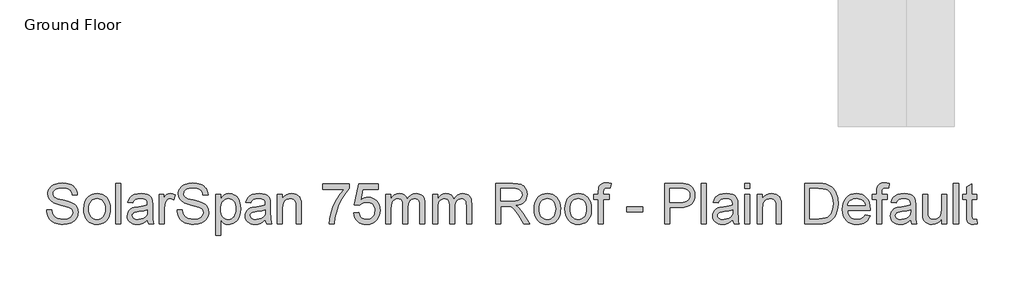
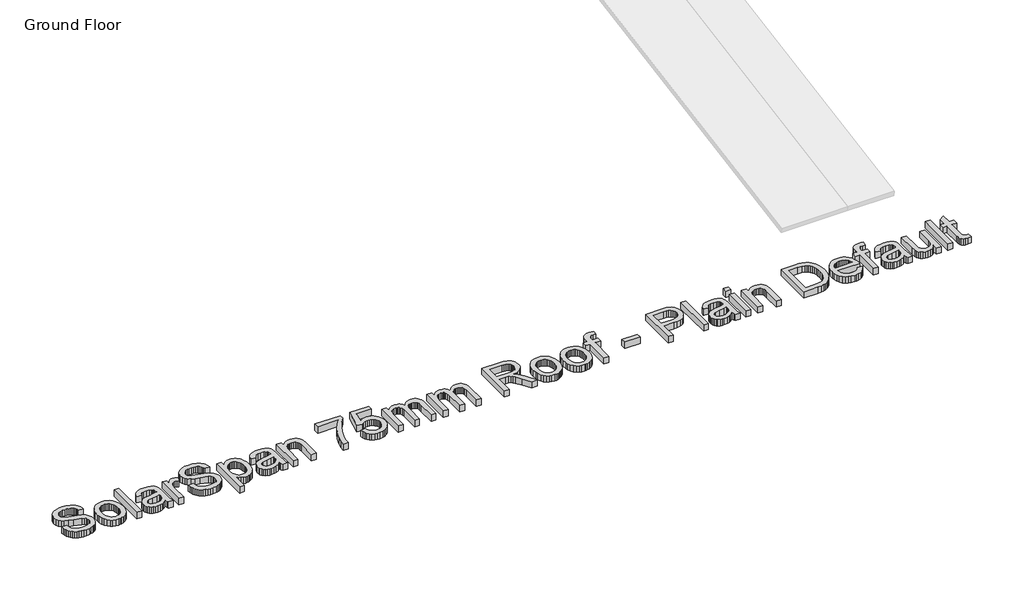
# One storey, part 2 of 5: 1 proxy.
"""IFC4 building model written with IfcOpenShell, lengths in millimetres."""

from ifc_helpers import new_model, si_unit, origin, origin_with_axes, place, context, project, spatial, polyline, outline, extrude, element, save

model = new_model("IFC4")

# Units and contexts
model_context = context("Model", 3, world=origin())
ifc_project = project(units=[si_unit("LENGTHUNIT", "METRE", prefix="MILLI")], contexts=[model_context])

# Site, building, storey
site = spatial("IfcSite", under=ifc_project)
building = spatial("IfcBuilding", under=site)
storey = spatial("IfcBuildingStorey", under=building, Name="Ground Floor", Elevation=0.0)

# Proxy
placement = place(None, origin())
element("IfcBuildingElementProxy", 1, Name="600mm Arial", ObjectType="600mm Arial", at=placement, inside=storey, context=model_context, shape_type="SweptSolid", body=[
    extrude(outline(polyline([(-13762.2591402, -48770.7862675), (-13688.4129863, -48770.7862675), (-13679.9394287, -48811.7658348), (-13664.6149094, -48844.7045367), (-13640.7086594, -48870.8463636), (-13606.4899094, -48891.4353059), (-13564.6629863, -48904.7946809), (-13517.9322171, -48909.2478059), (-13476.7903902, -48905.8764117), (-13440.7687556, -48895.762229), (-13411.5800537, -48879.7526136), (-13390.9370248, -48858.6949213), (-13378.6593806, -48834.5182386), (-13374.5668325, -48809.1516521), (-13377.6317363, -48784.434104), (-13386.8264479, -48763.0699213), (-13405.5043325, -48744.8427579), (-13437.0187556, -48729.5362675), (-13544.542794, -48701.3391521), (-13615.1257267, -48682.6792963), (-13660.2879863, -48664.9208829), (-13697.0488037, -48640.0771329), (-13723.1004863, -48609.9689598), (-13738.6233229, -48575.2454021), (-13743.7976017, -48536.5554982), (-13742.1975416, -48514.5648132), (-13737.3973613, -48493.3042963), (-13729.3970609, -48472.7739478), (-13718.1966402, -48452.9737675), (-13703.9223012, -48434.7105463), (-13686.700246, -48418.7910752), (-13666.5304743, -48405.215354), (-13643.4129863, -48393.9833829), (-13591.4538517, -48378.8932386), (-13533.9418325, -48373.8631906), (-13471.6341402, -48379.1276136), (-13417.1149094, -48394.9208829), (-13393.262746, -48406.684705), (-13372.3312556, -48420.918479), (-13354.3204383, -48437.622205), (-13339.230294, -48456.7958829), (-13327.1780104, -48477.8806184), (-13318.2807748, -48500.3175175), (-13312.5385873, -48524.10658), (-13309.9514479, -48549.2478059), (-13383.7976017, -48549.2478059), (-13388.7375056, -48525.684104), (-13397.355294, -48505.1853059), (-13409.6509671, -48487.7514117), (-13425.6245248, -48473.3824213), (-13445.5734431, -48462.1504502), (-13469.7951979, -48454.1276136), (-13498.2897892, -48449.3139117), (-13531.0572171, -48447.7093444), (-13564.8703181, -48449.2958829), (-13593.761544, -48454.0554982), (-13617.730895, -48461.9881906), (-13636.778371, -48473.0939598), (-13651.2915921, -48486.4443204), (-13661.6581787, -48501.1107867), (-13667.8781306, -48517.0933588), (-13669.9514479, -48534.3920367), (-13664.074044, -48562.7694406), (-13646.4418325, -48585.5939598), (-13630.2519287, -48595.7442002), (-13604.7591402, -48606.0026136), (-13525.8649094, -48626.8439598), (-13444.4466402, -48646.6396329), (-13395.1918325, -48663.9112675), (-13353.0944767, -48690.7021329), (-13336.8189359, -48706.45033), (-13323.7254863, -48723.7670367), (-13313.660883, -48742.5621088), (-13306.4718806, -48762.7454021), (-13300.7206787, -48807.2766521), (-13302.3748253, -48830.3761112), (-13307.3372652, -48852.7994886), (-13315.6079984, -48874.5467843), (-13327.1870248, -48895.6179982), (-13341.87152, -48915.1973252), (-13359.4586594, -48932.4689598), (-13379.9484431, -48947.4329021), (-13403.340871, -48960.0891521), (-13428.9553541, -48970.1537555), (-13456.1113037, -48977.3427579), (-13515.0476017, -48983.0939598), (-13552.8225416, -48981.543479), (-13587.3973613, -48976.8920367), (-13618.7720609, -48969.1396329), (-13646.9466402, -48958.2862675), (-13672.0923734, -48944.3139117), (-13694.3805344, -48927.2045367), (-13713.8111234, -48906.9581425), (-13730.3841402, -48883.574729), (-13743.7345008, -48857.8115079), (-13753.497121, -48830.4256906), (-13759.6720008, -48801.4172771), (-13762.2591402, -48770.7862675)])), origin_with_axes(), (0.0, 0.0, 1.0), 100.0),
    extrude(outline(polyline([(-13217.6437556, -48756.9401136), (-13213.6503662, -48700.7532146), (-13201.6701979, -48652.3367482), (-13181.7032508, -48611.6907146), (-13153.7495248, -48578.8151136), (-13125.606496, -48557.8024934), (-13094.542794, -48542.793479), (-13060.558419, -48533.7880704), (-13023.653371, -48530.7862675), (-12982.9126859, -48534.441616), (-12946.075246, -48545.4076617), (-12913.1410512, -48563.6844045), (-12884.1101017, -48589.2718444), (-12860.4156907, -48621.3045968), (-12843.4911113, -48658.9172771), (-12833.3363637, -48702.1098853), (-12829.9514479, -48750.8824213), (-12831.4478421, -48790.4106665), (-12835.9370248, -48825.4857867), (-12843.418996, -48856.1077819), (-12853.8937556, -48882.2766521), (-12867.2305945, -48904.880318), (-12883.2988037, -48924.8067002), (-12902.098383, -48942.0557987), (-12923.6293325, -48956.6276136), (-12947.0533109, -48968.2066401), (-12971.5319767, -48976.4773732), (-12997.0653301, -48981.4398132), (-13023.653371, -48983.0939598), (-13064.989008, -48979.4521329), (-13102.168996, -48968.5266521), (-13135.1933349, -48950.3175175), (-13164.0620248, -48924.824729), (-13187.504032, -48892.480979), (-13204.2483229, -48853.7189598), (-13214.2948974, -48808.5386713), (-13217.6437556, -48756.9401136)]), holes=[polyline([(-13143.7976017, -48756.7958829), (-13141.6611835, -48792.614693), (-13135.2519287, -48823.6288156), (-13124.5698373, -48849.8382507), (-13109.6149094, -48871.2429982), (-13091.4238037, -48887.8701016), (-13071.0331787, -48899.746604), (-13048.4430344, -48906.8725055), (-13023.653371, -48909.2478059), (-12998.9899094, -48906.8589838), (-12976.4899094, -48899.6925175), (-12956.153371, -48887.7484069), (-12937.980294, -48871.0266521), (-12923.0253662, -48849.4100656), (-12912.3432748, -48822.7814598), (-12905.93402, -48791.1408348), (-12903.7976017, -48754.4881906), (-12905.9475416, -48719.8051978), (-12912.3973613, -48689.6023732), (-12923.1470609, -48663.879717), (-12938.1966402, -48642.637229), (-12956.4373253, -48626.0101257), (-12976.7603421, -48614.1336232), (-12999.1656907, -48607.0077218), (-13023.653371, -48604.6324213), (-13048.4430344, -48606.9987074), (-13071.0331787, -48614.0975656), (-13091.4238037, -48625.9289958), (-13109.6149094, -48642.4929982), (-13124.5698373, -48663.8346449), (-13135.2519287, -48689.9990079), (-13141.6611835, -48720.9860872), (-13143.7976017, -48756.7958829)])]), origin_with_axes(), (0.0, 0.0, 1.0), 100.0),
    extrude(outline(polyline([(-12746.8745248, -48973.8631906), (-12746.8745248, -48383.0939598), (-12673.028371, -48383.0939598), (-12673.028371, -48973.8631906), (-12746.8745248, -48973.8631906)])), origin_with_axes(), (0.0, 0.0, 1.0), 100.0),
    extrude(outline(polyline([(-12285.3360633, -48918.4785752), (-12320.6185152, -48948.730979), (-12356.9466402, -48968.5266521), (-12395.1497652, -48979.4521329), (-12436.0572171, -48983.0939598), (-12468.9373253, -48980.903455), (-12497.7699575, -48974.3319406), (-12522.5551137, -48963.3794165), (-12543.292794, -48948.0458829), (-12559.6674936, -48929.3048973), (-12571.3637075, -48908.1300175), (-12578.3814359, -48884.5212434), (-12580.7206787, -48858.4785752), (-12577.1870248, -48827.8655944), (-12566.5860633, -48800.0651136), (-12550.2338998, -48776.2670367), (-12529.4466402, -48757.6612675), (-12505.0175537, -48743.5987675), (-12477.7399094, -48733.4304982), (-12413.8456787, -48722.324729), (-12338.340871, -48710.6420367), (-12285.7687556, -48696.9401136), (-12285.3360633, -48680.4978059), (-12290.4201979, -48647.5410752), (-12296.7753662, -48635.3355463), (-12305.6726017, -48625.9785752), (-12321.0512075, -48616.6396329), (-12339.7831787, -48609.9689598), (-12387.3072171, -48604.6324213), (-12431.2976017, -48608.184104), (-12462.0187556, -48618.8391521), (-12482.9682748, -48638.5446809), (-12497.6437556, -48669.2478059), (-12571.4899094, -48660.0170367), (-12558.6713998, -48619.6324213), (-12539.542794, -48587.9016521), (-12512.3192363, -48563.6348252), (-12475.215871, -48545.6420367), (-12429.8372652, -48534.5002098), (-12377.7879863, -48530.7862675), (-12327.8661113, -48534.0675175), (-12288.292794, -48543.9112675), (-12258.4550537, -48558.7129502), (-12237.7399094, -48576.8679982), (-12224.0019287, -48599.3139117), (-12215.0956787, -48626.9881906), (-12211.4899094, -48691.6035752), (-12211.4899094, -48783.4785752), (-12207.7399094, -48911.7718444), (-12202.1870248, -48943.4845848), (-12193.028371, -48973.8631906), (-12266.8745248, -48973.8631906), (-12278.7014479, -48948.1901136), (-12285.3360633, -48918.4785752)]), holes=[polyline([(-12285.3360633, -48770.7862675), (-12334.9514479, -48783.0819406), (-12404.4706787, -48793.4304982), (-12468.0043325, -48805.4016521), (-12484.5367844, -48813.5867482), (-12496.778371, -48824.8728059), (-12504.3504863, -48838.3944406), (-12506.8745248, -48853.2862675), (-12501.3757267, -48875.2454021), (-12484.8793325, -48893.2381906), (-12457.745919, -48905.2454021), (-12420.3360633, -48909.2478059), (-12380.6726017, -48904.8307386), (-12345.6245248, -48891.5795367), (-12317.2110633, -48872.0542963), (-12297.4514479, -48848.8151136), (-12288.6894287, -48824.8728059), (-12285.7687556, -48791.699729), (-12285.3360633, -48770.7862675)])]), origin_with_axes(), (0.0, 0.0, 1.0), 100.0),
    extrude(outline(polyline([(-12109.9514479, -48973.8631906), (-12109.9514479, -48540.0170367), (-12045.3360633, -48540.0170367), (-12045.3360633, -48604.199729), (-12021.465871, -48566.9881906), (-11999.4706787, -48545.0651136), (-11977.403371, -48534.355979), (-11953.3168325, -48530.7862675), (-11916.5379863, -48536.4833829), (-11879.1822171, -48553.574729), (-11903.8456787, -48619.7766521), (-11929.8072171, -48608.418479), (-11955.7687556, -48604.6324213), (-11977.8180344, -48608.2742482), (-11997.5235633, -48619.199729), (-12013.4430344, -48636.5795367), (-12024.1341402, -48659.5843444), (-12033.1125056, -48700.8343444), (-12036.105294, -48745.8343444), (-12036.105294, -48973.8631906), (-12109.9514479, -48973.8631906)])), origin_with_axes(), (0.0, 0.0, 1.0), 100.0),
    extrude(outline(polyline([(-11851.4899094, -48770.7862675), (-11777.6437556, -48770.7862675), (-11769.1701979, -48811.7658348), (-11753.8456787, -48844.7045367), (-11729.9394287, -48870.8463636), (-11695.7206787, -48891.4353059), (-11653.8937556, -48904.7946809), (-11607.1629863, -48909.2478059), (-11566.0211594, -48905.8764117), (-11529.9995248, -48895.762229), (-11500.8108229, -48879.7526136), (-11480.167794, -48858.6949213), (-11467.8901498, -48834.5182386), (-11463.7976017, -48809.1516521), (-11466.8625056, -48784.434104), (-11476.0572171, -48763.0699213), (-11494.7351017, -48744.8427579), (-11526.2495248, -48729.5362675), (-11633.7735633, -48701.3391521), (-11704.356496, -48682.6792963), (-11749.5187556, -48664.9208829), (-11786.2795729, -48640.0771329), (-11812.3312556, -48609.9689598), (-11827.8540921, -48575.2454021), (-11833.028371, -48536.5554982), (-11831.4283109, -48514.5648132), (-11826.6281306, -48493.3042963), (-11818.6278301, -48472.7739478), (-11807.4274094, -48452.9737675), (-11793.1530705, -48434.7105463), (-11775.9310152, -48418.7910752), (-11755.7612436, -48405.215354), (-11732.6437556, -48393.9833829), (-11680.684621, -48378.8932386), (-11623.1726017, -48373.8631906), (-11560.8649094, -48379.1276136), (-11506.3456787, -48394.9208829), (-11482.4935152, -48406.684705), (-11461.5620248, -48420.918479), (-11443.5512075, -48437.622205), (-11428.4610633, -48456.7958829), (-11416.4087796, -48477.8806184), (-11407.511544, -48500.3175175), (-11401.7693565, -48524.10658), (-11399.1822171, -48549.2478059), (-11473.028371, -48549.2478059), (-11477.9682748, -48525.684104), (-11486.5860633, -48505.1853059), (-11498.8817363, -48487.7514117), (-11514.855294, -48473.3824213), (-11534.8042123, -48462.1504502), (-11559.0259671, -48454.1276136), (-11587.5205585, -48449.3139117), (-11620.2879863, -48447.7093444), (-11654.1010873, -48449.2958829), (-11682.9923133, -48454.0554982), (-11706.9616642, -48461.9881906), (-11726.0091402, -48473.0939598), (-11740.5223613, -48486.4443204), (-11750.8889479, -48501.1107867), (-11757.1088998, -48517.0933588), (-11759.1822171, -48534.3920367), (-11753.3048133, -48562.7694406), (-11735.6726017, -48585.5939598), (-11719.4826979, -48595.7442002), (-11693.9899094, -48606.0026136), (-11615.0956787, -48626.8439598), (-11533.6774094, -48646.6396329), (-11484.4226017, -48663.9112675), (-11442.325246, -48690.7021329), (-11426.0497051, -48706.45033), (-11412.9562556, -48723.7670367), (-11402.8916522, -48742.5621088), (-11395.7026498, -48762.7454021), (-11389.9514479, -48807.2766521), (-11391.6055945, -48830.3761112), (-11396.5680344, -48852.7994886), (-11404.8387676, -48874.5467843), (-11416.417794, -48895.6179982), (-11431.1022892, -48915.1973252), (-11448.6894287, -48932.4689598), (-11469.1792123, -48947.4329021), (-11492.5716402, -48960.0891521), (-11518.1861234, -48970.1537555), (-11545.3420729, -48977.3427579), (-11604.278371, -48983.0939598), (-11642.0533109, -48981.543479), (-11676.6281306, -48976.8920367), (-11708.0028301, -48969.1396329), (-11736.1774094, -48958.2862675), (-11761.3231426, -48944.3139117), (-11783.6113037, -48927.2045367), (-11803.0418926, -48906.9581425), (-11819.6149094, -48883.574729), (-11832.96527, -48857.8115079), (-11842.7278902, -48830.4256906), (-11848.90277, -48801.4172771), (-11851.4899094, -48770.7862675)])), origin_with_axes(), (0.0, 0.0, 1.0), 100.0),
    extrude(outline(polyline([(-11288.4129863, -49140.0170367), (-11288.4129863, -48540.0170367), (-11214.5668325, -48540.0170367), (-11214.5668325, -48612.4208829), (-11190.480294, -48576.7057386), (-11163.5091402, -48551.1949213), (-11132.0668325, -48535.8884309), (-11094.5668325, -48530.7862675), (-11068.8126258, -48532.5711232), (-11044.6269287, -48537.9256906), (-11022.0097412, -48546.8499694), (-11000.9610633, -48559.3439598), (-10981.9406306, -48575.0831425), (-10965.4081787, -48593.7429982), (-10951.3637075, -48615.3235271), (-10939.8072171, -48639.824729), (-10924.3384671, -48694.2357867), (-10919.1822171, -48753.6228059), (-10925.0055344, -48816.777854), (-10932.2846811, -48845.8538757), (-10942.4754863, -48873.262229), (-10955.4382267, -48898.2862675), (-10971.0331787, -48920.2093444), (-10989.2603421, -48939.0314598), (-11010.1197171, -48954.7526136), (-11032.5881666, -48967.1519526), (-11055.6425537, -48976.0086232), (-11079.2828782, -48981.3226257), (-11103.5091402, -48983.0939598), (-11137.4574575, -48978.3523732), (-11167.7639479, -48964.1276136), (-11193.7074575, -48942.6552579), (-11214.5668325, -48916.1708829), (-11214.5668325, -49140.0170367), (-11288.4129863, -49140.0170367)]), holes=[polyline([(-11214.5668325, -48760.4016521), (-11212.5701378, -48795.9905944), (-11206.5800537, -48826.6035752), (-11196.5965801, -48852.2405944), (-11182.6197171, -48872.9016521), (-11165.7942964, -48888.8030944), (-11147.2651498, -48900.1612675), (-11127.0322772, -48906.9761713), (-11105.0956787, -48909.2478059), (-11082.8435753, -48906.8950415), (-11062.2411113, -48899.8367482), (-11043.2882868, -48888.0729261), (-11025.9851017, -48871.6035752), (-11011.566532, -48850.1943204), (-11001.2675537, -48823.6107867), (-10995.0881666, -48791.8529742), (-10993.028371, -48754.9208829), (-10995.0385873, -48719.6384309), (-11001.0692363, -48689.0795367), (-11011.1203181, -48663.2442002), (-11025.1918325, -48642.1324213), (-11042.0578181, -48625.7261713), (-11060.4923133, -48614.0074213), (-11080.4953181, -48606.9761713), (-11102.0668325, -48604.6324213), (-11123.5707387, -48607.1249093), (-11143.8036113, -48614.6023732), (-11162.7654503, -48627.0648132), (-11180.4562556, -48644.512229), (-11195.379633, -48666.7102458), (-11206.0391883, -48693.4244886), (-11212.4349214, -48724.6549574), (-11214.5668325, -48760.4016521)])]), origin_with_axes(), (0.0, 0.0, 1.0), 100.0),
    extrude(outline(polyline([(-10559.1822171, -48918.4785752), (-10594.464669, -48948.730979), (-10630.792794, -48968.5266521), (-10668.995919, -48979.4521329), (-10709.903371, -48983.0939598), (-10742.7834791, -48980.903455), (-10771.6161113, -48974.3319406), (-10796.4012676, -48963.3794165), (-10817.1389479, -48948.0458829), (-10833.5136474, -48929.3048973), (-10845.2098613, -48908.1300175), (-10852.2275897, -48884.5212434), (-10854.5668325, -48858.4785752), (-10851.0331787, -48827.8655944), (-10840.4322171, -48800.0651136), (-10824.0800537, -48776.2670367), (-10803.292794, -48757.6612675), (-10778.8637075, -48743.5987675), (-10751.5860633, -48733.4304982), (-10687.6918325, -48722.324729), (-10612.1870248, -48710.6420367), (-10559.6149094, -48696.9401136), (-10559.1822171, -48680.4978059), (-10564.2663517, -48647.5410752), (-10570.62152, -48635.3355463), (-10579.5187556, -48625.9785752), (-10594.8973613, -48616.6396329), (-10613.6293325, -48609.9689598), (-10661.153371, -48604.6324213), (-10705.1437556, -48608.184104), (-10735.8649094, -48618.8391521), (-10756.8144287, -48638.5446809), (-10771.4899094, -48669.2478059), (-10845.3360633, -48660.0170367), (-10832.5175537, -48619.6324213), (-10813.3889479, -48587.9016521), (-10786.1653902, -48563.6348252), (-10749.0620248, -48545.6420367), (-10703.683419, -48534.5002098), (-10651.6341402, -48530.7862675), (-10601.7122652, -48534.0675175), (-10562.1389479, -48543.9112675), (-10532.3012075, -48558.7129502), (-10511.5860633, -48576.8679982), (-10497.8480825, -48599.3139117), (-10488.9418325, -48626.9881906), (-10485.3360633, -48691.6035752), (-10485.3360633, -48783.4785752), (-10481.5860633, -48911.7718444), (-10476.0331787, -48943.4845848), (-10466.8745248, -48973.8631906), (-10540.7206787, -48973.8631906), (-10552.5476017, -48948.1901136), (-10559.1822171, -48918.4785752)]), holes=[polyline([(-10559.1822171, -48770.7862675), (-10608.7976017, -48783.0819406), (-10678.3168325, -48793.4304982), (-10741.8504863, -48805.4016521), (-10758.3829383, -48813.5867482), (-10770.6245248, -48824.8728059), (-10778.1966402, -48838.3944406), (-10780.7206787, -48853.2862675), (-10775.2218806, -48875.2454021), (-10758.7254863, -48893.2381906), (-10731.5920729, -48905.2454021), (-10694.1822171, -48909.2478059), (-10654.5187556, -48904.8307386), (-10619.4706787, -48891.5795367), (-10591.0572171, -48872.0542963), (-10571.2976017, -48848.8151136), (-10562.5355825, -48824.8728059), (-10559.6149094, -48791.699729), (-10559.1822171, -48770.7862675)])]), origin_with_axes(), (0.0, 0.0, 1.0), 100.0),
    extrude(outline(polyline([(-10383.7976017, -48973.8631906), (-10383.7976017, -48540.0170367), (-10309.9514479, -48540.0170367), (-10309.9514479, -48600.5939598), (-10284.2963998, -48570.0530944), (-10253.4851017, -48548.2381906), (-10217.5175537, -48535.1492482), (-10176.3937556, -48530.7862675), (-10139.9935152, -48534.3018925), (-10106.6581787, -48544.8487675), (-10078.8576979, -48561.1107867), (-10059.0620248, -48581.7718444), (-10045.6305344, -48606.777854), (-10036.9226017, -48636.074729), (-10033.028371, -48707.4689598), (-10033.028371, -48973.8631906), (-10106.8745248, -48973.8631906), (-10106.8745248, -48717.4208829), (-10109.0019287, -48679.2357867), (-10115.3841402, -48652.0843444), (-10127.1569767, -48632.6312194), (-10145.4562556, -48617.5410752), (-10168.9117844, -48607.8595848), (-10196.153371, -48604.6324213), (-10218.5767484, -48606.4443204), (-10239.4045729, -48611.8800175), (-10258.6368445, -48620.9395127), (-10276.2735633, -48633.6228059), (-10291.0076378, -48651.372205), (-10301.5319767, -48675.6300175), (-10307.8465801, -48706.3962434), (-10309.9514479, -48743.6708829), (-10309.9514479, -48973.8631906), (-10383.7976017, -48973.8631906)])), origin_with_axes(), (0.0, 0.0, 1.0), 100.0),
    extrude(outline(polyline([(-9719.1822171, -48466.1708829), (-9719.1822171, -48392.324729), (-9331.4899094, -48392.324729), (-9331.4899094, -48452.0362675), (-9386.7483229, -48521.9701617), (-9441.465871, -48610.9064598), (-9489.7290921, -48710.7321809), (-9525.6245248, -48813.3343444), (-9543.2206787, -48890.1011713), (-9553.028371, -48973.8631906), (-9626.8745248, -48973.8631906), (-9618.887746, -48897.7454021), (-9597.5235633, -48807.2766521), (-9563.3588998, -48711.3812194), (-9516.9706787, -48618.9833829), (-9462.8120248, -48535.4557386), (-9405.3360633, -48466.1708829), (-9719.1822171, -48466.1708829)])), origin_with_axes(), (0.0, 0.0, 1.0), 100.0),
    extrude(outline(polyline([(-9266.8745248, -48816.9401136), (-9193.028371, -48807.7093444), (-9187.511544, -48831.4488276), (-9179.4706787, -48852.0422771), (-9168.9057748, -48869.489693), (-9155.8168325, -48883.7910752), (-9140.230895, -48894.9283949), (-9122.1750056, -48902.8836232), (-9101.6491642, -48907.6567603), (-9078.653371, -48909.2478059), (-9050.528371, -48907.0347651), (-9025.7206787, -48900.3956425), (-9004.230294, -48889.3304382), (-8986.0572171, -48873.8391521), (-8971.6070969, -48854.6880103), (-8961.2855825, -48832.6432386), (-8955.0926738, -48807.7048372), (-8953.028371, -48779.8728059), (-8954.9619647, -48753.5687194), (-8960.762746, -48730.1853059), (-8970.4307147, -48709.7225656), (-8983.965871, -48692.1804982), (-9001.4132868, -48678.1089838), (-9022.8180344, -48668.0579021), (-9048.1801137, -48662.0272531), (-9077.4995248, -48660.0170367), (-9113.3228421, -48663.2261713), (-9142.3312556, -48672.8535752), (-9165.4983229, -48687.6011713), (-9183.7976017, -48706.1708829), (-9257.6437556, -48696.9401136), (-9193.028371, -48392.324729), (-8906.8745248, -48392.324729), (-8906.8745248, -48466.1708829), (-9133.3168325, -48466.1708829), (-9164.903371, -48628.8631906), (-9138.8426738, -48610.1853059), (-9112.1509671, -48596.8439598), (-9084.8282508, -48588.8391521), (-9056.8745248, -48586.1708829), (-9020.9114839, -48589.4791761), (-8987.8781306, -48599.4040559), (-8957.7744647, -48615.9455223), (-8930.6004863, -48639.1035752), (-8908.1049936, -48667.4629502), (-8892.0367844, -48699.6083829), (-8882.3958589, -48735.5398732), (-8879.1822171, -48775.2574213), (-8882.0758469, -48813.5146329), (-8890.7567363, -48849.1035752), (-8905.2248854, -48882.0242482), (-8925.480294, -48912.2766521), (-8956.1653902, -48943.2592242), (-8991.9706787, -48965.3896329), (-9032.8961594, -48978.6678781), (-9078.9418325, -48983.0939598), (-9117.0503061, -48980.2499093), (-9151.4718806, -48971.7177579), (-9182.2065561, -48957.4975055), (-9209.2543325, -48937.5891521), (-9231.7588397, -48912.9842843), (-9248.8637075, -48884.6744886), (-9260.5689359, -48852.6597651), (-9266.8745248, -48816.9401136)])), origin_with_axes(), (0.0, 0.0, 1.0), 100.0),
    extrude(outline(polyline([(-8796.105294, -48973.8631906), (-8796.105294, -48540.0170367), (-8722.2591402, -48540.0170367), (-8722.2591402, -48611.4112675), (-8700.0476017, -48578.6167963), (-8671.4899094, -48552.9256906), (-8637.559621, -48536.3211232), (-8599.230294, -48530.7862675), (-8558.1605825, -48536.4292963), (-8540.6816162, -48543.4830824), (-8525.2399094, -48553.3583829), (-8500.6485633, -48580.4557386), (-8484.5668325, -48616.6035752), (-8457.6497652, -48579.0585031), (-8426.9466402, -48552.2405944), (-8392.4574575, -48536.1498492), (-8354.1822171, -48530.7862675), (-8324.6194166, -48533.0173372), (-8298.6713998, -48539.7105463), (-8276.3381666, -48550.8658949), (-8257.6197171, -48566.4833829), (-8242.8225416, -48586.7432987), (-8232.2531306, -48611.8259309), (-8225.9114839, -48641.7312795), (-8223.7976017, -48676.4593444), (-8223.7976017, -48973.8631906), (-8297.6437556, -48973.8631906), (-8297.6437556, -48708.1901136), (-8299.356496, -48671.3571809), (-8304.4947171, -48646.5314598), (-8314.122121, -48629.5302579), (-8329.3024094, -48616.1708829), (-8348.8276498, -48607.5170367), (-8371.4899094, -48604.6324213), (-8392.4168926, -48606.4803781), (-8411.495919, -48612.0242482), (-8428.7269887, -48621.2640319), (-8444.1101017, -48634.199729), (-8456.7618445, -48651.2099454), (-8465.7988037, -48672.6732867), (-8471.2209791, -48698.5897531), (-8473.028371, -48728.9593444), (-8473.028371, -48973.8631906), (-8546.8745248, -48973.8631906), (-8546.8745248, -48699.9689598), (-8551.1473613, -48658.2141521), (-8563.965871, -48628.4304982), (-8573.8772291, -48618.0188396), (-8586.5199575, -48610.5819406), (-8601.8940561, -48606.1198011), (-8619.9995248, -48604.6324213), (-8648.449044, -48608.5987675), (-8674.6629863, -48620.4978059), (-8696.2976017, -48640.0410752), (-8711.0091402, -48666.9401136), (-8719.4466402, -48704.2598252), (-8722.2591402, -48755.0651136), (-8722.2591402, -48973.8631906), (-8796.105294, -48973.8631906)])), origin_with_axes(), (0.0, 0.0, 1.0), 100.0),
    extrude(outline(polyline([(-8113.028371, -48973.8631906), (-8113.028371, -48540.0170367), (-8039.1822171, -48540.0170367), (-8039.1822171, -48611.4112675), (-8016.9706787, -48578.6167963), (-7988.4129863, -48552.9256906), (-7954.4826979, -48536.3211232), (-7916.153371, -48530.7862675), (-7875.0836594, -48536.4292963), (-7857.6046931, -48543.4830824), (-7842.1629863, -48553.3583829), (-7817.5716402, -48580.4557386), (-7801.4899094, -48616.6035752), (-7774.5728421, -48579.0585031), (-7743.8697171, -48552.2405944), (-7709.3805344, -48536.1498492), (-7671.105294, -48530.7862675), (-7641.5424936, -48533.0173372), (-7615.5944767, -48539.7105463), (-7593.2612436, -48550.8658949), (-7574.542794, -48566.4833829), (-7559.7456186, -48586.7432987), (-7549.1762075, -48611.8259309), (-7542.8345609, -48641.7312795), (-7540.7206787, -48676.4593444), (-7540.7206787, -48973.8631906), (-7614.5668325, -48973.8631906), (-7614.5668325, -48708.1901136), (-7616.2795729, -48671.3571809), (-7621.417794, -48646.5314598), (-7631.0451979, -48629.5302579), (-7646.2254863, -48616.1708829), (-7665.7507267, -48607.5170367), (-7688.4129863, -48604.6324213), (-7709.3399695, -48606.4803781), (-7728.418996, -48612.0242482), (-7745.6500657, -48621.2640319), (-7761.0331787, -48634.199729), (-7773.6849214, -48651.2099454), (-7782.7218806, -48672.6732867), (-7788.1440561, -48698.5897531), (-7789.9514479, -48728.9593444), (-7789.9514479, -48973.8631906), (-7863.7976017, -48973.8631906), (-7863.7976017, -48699.9689598), (-7868.0704383, -48658.2141521), (-7880.8889479, -48628.4304982), (-7890.8003061, -48618.0188396), (-7903.4430344, -48610.5819406), (-7918.817133, -48606.1198011), (-7936.9226017, -48604.6324213), (-7965.372121, -48608.5987675), (-7991.5860633, -48620.4978059), (-8013.2206787, -48640.0410752), (-8027.9322171, -48666.9401136), (-8036.3697171, -48704.2598252), (-8039.1822171, -48755.0651136), (-8039.1822171, -48973.8631906), (-8113.028371, -48973.8631906)])), origin_with_axes(), (0.0, 0.0, 1.0), 100.0),
    extrude(outline(polyline([(-7189.9514479, -48973.8631906), (-7189.9514479, -48383.0939598), (-6935.3841402, -48383.0939598), (-6866.964669, -48387.0783348), (-6817.1870248, -48399.0314598), (-6797.9772892, -48408.5326617), (-6780.8048133, -48421.0987675), (-6765.6695969, -48436.7297771), (-6752.5716402, -48455.4256906), (-6742.0022291, -48476.1813997), (-6734.4526498, -48497.9917963), (-6728.4129863, -48544.7766521), (-6730.9144887, -48575.1192002), (-6738.418996, -48602.9737675), (-6750.926508, -48628.340354), (-6768.4370248, -48651.2189598), (-6791.175907, -48670.8794165), (-6819.3685152, -48686.5915559), (-6853.0148493, -48698.3553781), (-6892.1149094, -48706.1708829), (-6867.7759671, -48722.0723252), (-6850.1437556, -48737.7574213), (-6790.2879863, -48813.7670367), (-6691.778371, -48973.8631906), (-6777.5956787, -48973.8631906), (-6854.4706787, -48851.4112675), (-6909.9995248, -48770.3535752), (-6930.6425537, -48746.7177579), (-6949.0139479, -48732.0603059), (-6984.1341402, -48717.9978059), (-7026.9706787, -48715.4016521), (-7116.105294, -48715.4016521), (-7116.105294, -48973.8631906), (-7189.9514479, -48973.8631906)]), holes=[polyline([(-7116.105294, -48641.5554982), (-6950.8168325, -48641.5554982), (-6903.3468806, -48638.9413156), (-6866.5139479, -48631.0987675), (-6838.7855825, -48617.5050175), (-6818.6293325, -48597.637229), (-6806.3516883, -48573.6047771), (-6802.2591402, -48547.5170367), (-6804.2107628, -48528.6318204), (-6810.0656306, -48511.4954021), (-6819.8237436, -48496.1077819), (-6833.4851017, -48482.4689598), (-6851.3652099, -48471.3000896), (-6873.7795729, -48463.3223252), (-6900.7281907, -48458.5356665), (-6932.2110633, -48456.9401136), (-7116.105294, -48456.9401136), (-7116.105294, -48641.5554982)])]), origin_with_axes(), (0.0, 0.0, 1.0), 100.0),
    extrude(outline(polyline([(-6626.8745248, -48756.9401136), (-6622.8811354, -48700.7532146), (-6610.9009671, -48652.3367482), (-6590.93402, -48611.6907146), (-6562.980294, -48578.8151136), (-6534.8372652, -48557.8024934), (-6503.7735633, -48542.793479), (-6469.7891883, -48533.7880704), (-6432.8841402, -48530.7862675), (-6392.1434551, -48534.441616), (-6355.3060152, -48545.4076617), (-6322.3718205, -48563.6844045), (-6293.340871, -48589.2718444), (-6269.6464599, -48621.3045968), (-6252.7218806, -48658.9172771), (-6242.567133, -48702.1098853), (-6239.1822171, -48750.8824213), (-6240.6786113, -48790.4106665), (-6245.167794, -48825.4857867), (-6252.6497652, -48856.1077819), (-6263.1245248, -48882.2766521), (-6276.4613637, -48904.880318), (-6292.5295729, -48924.8067002), (-6311.3291522, -48942.0557987), (-6332.8601017, -48956.6276136), (-6356.2840801, -48968.2066401), (-6380.762746, -48976.4773732), (-6406.2960993, -48981.4398132), (-6432.8841402, -48983.0939598), (-6474.2197772, -48979.4521329), (-6511.3997652, -48968.5266521), (-6544.4241041, -48950.3175175), (-6573.292794, -48924.824729), (-6596.7348012, -48892.480979), (-6613.4790921, -48853.7189598), (-6623.5256666, -48808.5386713), (-6626.8745248, -48756.9401136)]), holes=[polyline([(-6553.028371, -48756.7958829), (-6550.8919527, -48792.614693), (-6544.4826979, -48823.6288156), (-6533.8006065, -48849.8382507), (-6518.8456787, -48871.2429982), (-6500.6545729, -48887.8701016), (-6480.2639479, -48899.746604), (-6457.6738037, -48906.8725055), (-6432.8841402, -48909.2478059), (-6408.2206787, -48906.8589838), (-6385.7206787, -48899.6925175), (-6365.3841402, -48887.7484069), (-6347.2110633, -48871.0266521), (-6332.2561354, -48849.4100656), (-6321.574044, -48822.7814598), (-6315.1647892, -48791.1408348), (-6313.028371, -48754.4881906), (-6315.1783109, -48719.8051978), (-6321.6281306, -48689.6023732), (-6332.3778301, -48663.879717), (-6347.4274094, -48642.637229), (-6365.6680945, -48626.0101257), (-6385.9911113, -48614.1336232), (-6408.3964599, -48607.0077218), (-6432.8841402, -48604.6324213), (-6457.6738037, -48606.9987074), (-6480.2639479, -48614.0975656), (-6500.6545729, -48625.9289958), (-6518.8456787, -48642.4929982), (-6533.8006065, -48663.8346449), (-6544.4826979, -48689.9990079), (-6550.8919527, -48720.9860872), (-6553.028371, -48756.7958829)])]), origin_with_axes(), (0.0, 0.0, 1.0), 100.0),
    extrude(outline(polyline([(-6174.5668325, -48756.9401136), (-6170.5734431, -48700.7532146), (-6158.5932748, -48652.3367482), (-6138.6263277, -48611.6907146), (-6110.6726017, -48578.8151136), (-6082.5295729, -48557.8024934), (-6051.465871, -48542.793479), (-6017.481496, -48533.7880704), (-5980.5764479, -48530.7862675), (-5939.8357628, -48534.441616), (-5902.9983229, -48545.4076617), (-5870.0641282, -48563.6844045), (-5841.0331787, -48589.2718444), (-5817.3387676, -48621.3045968), (-5800.4141883, -48658.9172771), (-5790.2594407, -48702.1098853), (-5786.8745248, -48750.8824213), (-5788.370919, -48790.4106665), (-5792.8601017, -48825.4857867), (-5800.3420729, -48856.1077819), (-5810.8168325, -48882.2766521), (-5824.1536714, -48904.880318), (-5840.2218806, -48924.8067002), (-5859.0214599, -48942.0557987), (-5880.5524094, -48956.6276136), (-5903.9763878, -48968.2066401), (-5928.4550537, -48976.4773732), (-5953.988407, -48981.4398132), (-5980.5764479, -48983.0939598), (-6021.9120849, -48979.4521329), (-6059.0920729, -48968.5266521), (-6092.1164118, -48950.3175175), (-6120.9851017, -48924.824729), (-6144.4271089, -48892.480979), (-6161.1713998, -48853.7189598), (-6171.2179743, -48808.5386713), (-6174.5668325, -48756.9401136)]), holes=[polyline([(-6100.7206787, -48756.7958829), (-6098.5842604, -48792.614693), (-6092.1750056, -48823.6288156), (-6081.4929142, -48849.8382507), (-6066.5379863, -48871.2429982), (-6048.3468806, -48887.8701016), (-6027.9562556, -48899.746604), (-6005.3661113, -48906.8725055), (-5980.5764479, -48909.2478059), (-5955.9129863, -48906.8589838), (-5933.4129863, -48899.6925175), (-5913.0764479, -48887.7484069), (-5894.903371, -48871.0266521), (-5879.9484431, -48849.4100656), (-5869.2663517, -48822.7814598), (-5862.8570969, -48791.1408348), (-5860.7206787, -48754.4881906), (-5862.8706186, -48719.8051978), (-5869.3204383, -48689.6023732), (-5880.0701378, -48663.879717), (-5895.1197171, -48642.637229), (-5913.3604022, -48626.0101257), (-5933.683419, -48614.1336232), (-5956.0887676, -48607.0077218), (-5980.5764479, -48604.6324213), (-6005.3661113, -48606.9987074), (-6027.9562556, -48614.0975656), (-6048.3468806, -48625.9289958), (-6066.5379863, -48642.4929982), (-6081.4929142, -48663.8346449), (-6092.1750056, -48689.9990079), (-6098.5842604, -48720.9860872), (-6100.7206787, -48756.7958829)])]), origin_with_axes(), (0.0, 0.0, 1.0), 100.0),
    extrude(outline(polyline([(-5685.3360633, -48973.8631906), (-5685.3360633, -48613.8631906), (-5749.9514479, -48613.8631906), (-5749.9514479, -48540.0170367), (-5685.3360633, -48540.0170367), (-5685.3360633, -48496.3151136), (-5683.3889479, -48460.1492482), (-5677.5476017, -48434.7285752), (-5662.6918325, -48410.1732867), (-5639.7591402, -48390.7381906), (-5607.667794, -48378.0819406), (-5565.3360633, -48373.8631906), (-5533.2807748, -48375.8824213), (-5497.980294, -48381.9401136), (-5508.7976017, -48451.1708829), (-5551.3456787, -48447.7093444), (-5579.4165921, -48450.7742482), (-5597.8601017, -48459.9689598), (-5608.0824575, -48477.5290559), (-5611.4899094, -48505.6901136), (-5611.4899094, -48540.0170367), (-5528.4129863, -48540.0170367), (-5528.4129863, -48613.8631906), (-5611.4899094, -48613.8631906), (-5611.4899094, -48973.8631906), (-5685.3360633, -48973.8631906)])), origin_with_axes(), (0.0, 0.0, 1.0), 100.0),
    extrude(outline(polyline([(-5269.9514479, -48798.4785752), (-5269.9514479, -48724.6324213), (-5039.1822171, -48724.6324213), (-5039.1822171, -48798.4785752), (-5269.9514479, -48798.4785752)])), origin_with_axes(), (0.0, 0.0, 1.0), 100.0),
    extrude(outline(polyline([(-4716.105294, -48973.8631906), (-4716.105294, -48383.0939598), (-4497.1629863, -48383.0939598), (-4446.1774094, -48384.5002098), (-4408.8937556, -48388.7189598), (-4369.5367844, -48399.2297771), (-4337.1389479, -48416.3391521), (-4311.0512075, -48440.8223252), (-4290.6245248, -48473.4545367), (-4277.4274094, -48511.9461232), (-4273.028371, -48554.0074213), (-4275.9986234, -48590.2724454), (-4284.9093806, -48623.6348252), (-4299.7606426, -48654.0945607), (-4320.5524094, -48681.6516521), (-4349.0965801, -48704.4942002), (-4387.2050537, -48720.8103059), (-4434.8778301, -48730.5999694), (-4492.1149094, -48733.8631906), (-4642.2591402, -48733.8631906), (-4642.2591402, -48973.8631906), (-4716.105294, -48973.8631906)]), holes=[polyline([(-4642.2591402, -48660.0170367), (-4487.7879863, -48660.0170367), (-4452.2711594, -48658.3223252), (-4422.3072171, -48653.2381906), (-4397.8961594, -48644.7646329), (-4379.0379863, -48632.9016521), (-4364.9664719, -48617.9647531), (-4354.9153902, -48600.2694406), (-4348.8847412, -48579.8157146), (-4346.8745248, -48556.6035752), (-4351.6161113, -48523.4304982), (-4365.840871, -48495.449729), (-4387.7819767, -48474.3920367), (-4415.6726017, -48461.9881906), (-4444.1581787, -48458.2021329), (-4489.5187556, -48456.9401136), (-4642.2591402, -48456.9401136), (-4642.2591402, -48660.0170367)])]), origin_with_axes(), (0.0, 0.0, 1.0), 100.0),
    extrude(outline(polyline([(-4180.7206787, -48973.8631906), (-4180.7206787, -48383.0939598), (-4106.8745248, -48383.0939598), (-4106.8745248, -48973.8631906), (-4180.7206787, -48973.8631906)])), origin_with_axes(), (0.0, 0.0, 1.0), 100.0),
    extrude(outline(polyline([(-3719.1822171, -48918.4785752), (-3754.464669, -48948.730979), (-3790.792794, -48968.5266521), (-3828.995919, -48979.4521329), (-3869.903371, -48983.0939598), (-3902.7834791, -48980.903455), (-3931.6161113, -48974.3319406), (-3956.4012676, -48963.3794165), (-3977.1389479, -48948.0458829), (-3993.5136474, -48929.3048973), (-4005.2098613, -48908.1300175), (-4012.2275897, -48884.5212434), (-4014.5668325, -48858.4785752), (-4011.0331787, -48827.8655944), (-4000.4322171, -48800.0651136), (-3984.0800537, -48776.2670367), (-3963.292794, -48757.6612675), (-3938.8637075, -48743.5987675), (-3911.5860633, -48733.4304982), (-3847.6918325, -48722.324729), (-3772.1870248, -48710.6420367), (-3719.6149094, -48696.9401136), (-3719.1822171, -48680.4978059), (-3724.2663517, -48647.5410752), (-3730.62152, -48635.3355463), (-3739.5187556, -48625.9785752), (-3754.8973613, -48616.6396329), (-3773.6293325, -48609.9689598), (-3821.153371, -48604.6324213), (-3865.1437556, -48608.184104), (-3895.8649094, -48618.8391521), (-3916.8144287, -48638.5446809), (-3931.4899094, -48669.2478059), (-4005.3360633, -48660.0170367), (-3992.5175537, -48619.6324213), (-3973.3889479, -48587.9016521), (-3946.1653902, -48563.6348252), (-3909.0620248, -48545.6420367), (-3863.683419, -48534.5002098), (-3811.6341402, -48530.7862675), (-3761.7122652, -48534.0675175), (-3722.1389479, -48543.9112675), (-3692.3012075, -48558.7129502), (-3671.5860633, -48576.8679982), (-3657.8480825, -48599.3139117), (-3648.9418325, -48626.9881906), (-3645.3360633, -48691.6035752), (-3645.3360633, -48783.4785752), (-3641.5860633, -48911.7718444), (-3636.0331787, -48943.4845848), (-3626.8745248, -48973.8631906), (-3700.7206787, -48973.8631906), (-3712.5476017, -48948.1901136), (-3719.1822171, -48918.4785752)]), holes=[polyline([(-3719.1822171, -48770.7862675), (-3768.7976017, -48783.0819406), (-3838.3168325, -48793.4304982), (-3901.8504863, -48805.4016521), (-3918.3829383, -48813.5867482), (-3930.6245248, -48824.8728059), (-3938.1966402, -48838.3944406), (-3940.7206787, -48853.2862675), (-3935.2218806, -48875.2454021), (-3918.7254863, -48893.2381906), (-3891.5920729, -48905.2454021), (-3854.1822171, -48909.2478059), (-3814.5187556, -48904.8307386), (-3779.4706787, -48891.5795367), (-3751.0572171, -48872.0542963), (-3731.2976017, -48848.8151136), (-3722.5355825, -48824.8728059), (-3719.6149094, -48791.699729), (-3719.1822171, -48770.7862675)])]), origin_with_axes(), (0.0, 0.0, 1.0), 100.0),
    extrude(outline(polyline([(-3543.7976017, -48973.8631906), (-3543.7976017, -48540.0170367), (-3469.9514479, -48540.0170367), (-3469.9514479, -48973.8631906), (-3543.7976017, -48973.8631906)])), origin_with_axes(), (0.0, 0.0, 1.0), 100.0),
    extrude(outline(polyline([(-3543.7976017, -48456.9401136), (-3543.7976017, -48383.0939598), (-3469.9514479, -48383.0939598), (-3469.9514479, -48456.9401136), (-3543.7976017, -48456.9401136)])), origin_with_axes(), (0.0, 0.0, 1.0), 100.0),
    extrude(outline(polyline([(-3359.1822171, -48973.8631906), (-3359.1822171, -48540.0170367), (-3285.3360633, -48540.0170367), (-3285.3360633, -48600.5939598), (-3259.6810152, -48570.0530944), (-3228.8697171, -48548.2381906), (-3192.902169, -48535.1492482), (-3151.778371, -48530.7862675), (-3115.3781306, -48534.3018925), (-3082.042794, -48544.8487675), (-3054.2423133, -48561.1107867), (-3034.4466402, -48581.7718444), (-3021.0151498, -48606.777854), (-3012.3072171, -48636.074729), (-3008.4129863, -48707.4689598), (-3008.4129863, -48973.8631906), (-3082.2591402, -48973.8631906), (-3082.2591402, -48717.4208829), (-3084.386544, -48679.2357867), (-3090.7687556, -48652.0843444), (-3102.5415921, -48632.6312194), (-3120.840871, -48617.5410752), (-3144.2963998, -48607.8595848), (-3171.5379863, -48604.6324213), (-3193.9613637, -48606.4443204), (-3214.7891883, -48611.8800175), (-3234.0214599, -48620.9395127), (-3251.6581787, -48633.6228059), (-3266.3922532, -48651.372205), (-3276.9165921, -48675.6300175), (-3283.2311955, -48706.3962434), (-3285.3360633, -48743.6708829), (-3285.3360633, -48973.8631906), (-3359.1822171, -48973.8631906)])), origin_with_axes(), (0.0, 0.0, 1.0), 100.0),
    extrude(outline(polyline([(-2666.8745248, -48973.8631906), (-2666.8745248, -48383.0939598), (-2463.0764479, -48383.0939598), (-2402.1750056, -48385.2213636), (-2357.6437556, -48391.6035752), (-2310.5524094, -48408.0098252), (-2270.8168325, -48433.8631906), (-2248.9207988, -48454.9929982), (-2229.9634671, -48478.8631906), (-2213.9448373, -48505.4737675), (-2200.8649094, -48534.824729), (-2190.7056546, -48566.6456425), (-2183.449044, -48600.6660752), (-2177.6437556, -48675.3054982), (-2181.574044, -48738.7129502), (-2193.3649094, -48794.512229), (-2211.3216402, -48842.0182386), (-2233.7495248, -48880.5458829), (-2259.5668325, -48910.9605463), (-2287.6918325, -48934.1276136), (-2319.981496, -48951.309104), (-2358.292794, -48963.7670367), (-2402.6978421, -48971.3391521), (-2453.2687556, -48973.8631906), (-2666.8745248, -48973.8631906)]), holes=[polyline([(-2593.028371, -48900.0170367), (-2462.355294, -48900.0170367), (-2408.3048133, -48897.3487675), (-2367.3072171, -48889.3439598), (-2336.3697171, -48876.4713636), (-2312.4995248, -48859.199729), (-2286.8444767, -48827.2345848), (-2267.5716402, -48785.8583829), (-2255.5103421, -48734.8908348), (-2251.4899094, -48674.1516521), (-2253.4595609, -48631.2790559), (-2259.3685152, -48593.6708829), (-2269.2167724, -48561.3271329), (-2283.0043325, -48534.2478059), (-2299.613407, -48511.8199213), (-2317.9262075, -48493.4304982), (-2337.9427339, -48479.0795367), (-2359.6629863, -48468.7670367), (-2402.1389479, -48459.8968444), (-2464.3745248, -48456.9401136), (-2593.028371, -48456.9401136), (-2593.028371, -48900.0170367)])]), origin_with_axes(), (0.0, 0.0, 1.0), 100.0),
    extrude(outline(polyline([(-1781.5860633, -48844.6324213), (-1709.1822171, -48853.8631906), (-1720.2834791, -48882.8625896), (-1735.2699575, -48908.418479), (-1754.1416522, -48930.5308588), (-1776.8985633, -48949.199729), (-1803.3063157, -48964.028455), (-1833.1305344, -48974.6204021), (-1866.3712195, -48980.9755704), (-1903.028371, -48983.0939598), (-1948.8486835, -48979.4386112), (-1989.6750056, -48968.4725656), (-2025.5073373, -48950.1958228), (-2056.3456787, -48924.6083829), (-2081.1443565, -48892.4223853), (-2098.8576979, -48854.3499694), (-2109.4857027, -48810.3911353), (-2113.028371, -48760.5458829), (-2109.449645, -48709.0104261), (-2098.7134671, -48663.5867482), (-2080.8198373, -48624.2748492), (-2055.7687556, -48591.074729), (-2025.011544, -48564.6985271), (-1989.9995248, -48545.8583829), (-1950.7326979, -48534.5542963), (-1907.2110633, -48530.7862675), (-1865.0911714, -48534.5452819), (-1827.0007267, -48545.8223252), (-1792.9397291, -48564.6173973), (-1762.9081787, -48590.9304982), (-1738.3934551, -48624.0585031), (-1720.8829383, -48663.2982867), (-1710.3766282, -48708.6498492), (-1706.8745248, -48760.1131906), (-1707.3072171, -48780.0170367), (-2039.1822171, -48780.0170367), (-2034.9048734, -48809.4851857), (-2026.3997652, -48835.293479), (-2013.6668926, -48857.4419165), (-1996.7062556, -48875.9304982), (-1976.4553541, -48890.5068204), (-1953.8516883, -48900.918479), (-1928.895258, -48907.1654742), (-1901.5860633, -48909.2478059), (-1862.2831787, -48905.3896329), (-1829.1822171, -48893.8151136), (-1802.2831787, -48873.8030944), (-1781.5860633, -48844.6324213)]), holes=[polyline([(-2039.1822171, -48706.1708829), (-1780.7206787, -48706.1708829), (-1790.7086594, -48667.1564598), (-1799.2994046, -48651.8139117), (-1810.2879863, -48639.2478059), (-1830.4262075, -48624.1035752), (-1853.340871, -48613.2862675), (-1879.0319767, -48606.7958829), (-1907.4995248, -48604.6324213), (-1933.4655705, -48606.3586833), (-1957.277169, -48611.5374694), (-1978.9343205, -48620.1687795), (-1998.4370248, -48632.2526136), (-2014.8027099, -48647.2300776), (-2027.0488037, -48664.5422771), (-2035.1753061, -48684.1892122), (-2039.1822171, -48706.1708829)])]), origin_with_axes(), (0.0, 0.0, 1.0), 100.0),
    extrude(outline(polyline([(-1614.5668325, -48973.8631906), (-1614.5668325, -48613.8631906), (-1679.1822171, -48613.8631906), (-1679.1822171, -48540.0170367), (-1614.5668325, -48540.0170367), (-1614.5668325, -48496.3151136), (-1612.6197171, -48460.1492482), (-1606.778371, -48434.7285752), (-1591.9226017, -48410.1732867), (-1568.9899094, -48390.7381906), (-1536.8985633, -48378.0819406), (-1494.5668325, -48373.8631906), (-1462.511544, -48375.8824213), (-1427.2110633, -48381.9401136), (-1438.028371, -48451.1708829), (-1480.5764479, -48447.7093444), (-1508.6473613, -48450.7742482), (-1527.090871, -48459.9689598), (-1537.3132267, -48477.5290559), (-1540.7206787, -48505.6901136), (-1540.7206787, -48540.0170367), (-1457.6437556, -48540.0170367), (-1457.6437556, -48613.8631906), (-1540.7206787, -48613.8631906), (-1540.7206787, -48973.8631906), (-1614.5668325, -48973.8631906)])), origin_with_axes(), (0.0, 0.0, 1.0), 100.0),
    extrude(outline(polyline([(-1116.105294, -48918.4785752), (-1151.387746, -48948.730979), (-1187.715871, -48968.5266521), (-1225.918996, -48979.4521329), (-1266.8264479, -48983.0939598), (-1299.7065561, -48980.903455), (-1328.5391883, -48974.3319406), (-1353.3243445, -48963.3794165), (-1374.0620248, -48948.0458829), (-1390.4367243, -48929.3048973), (-1402.1329383, -48908.1300175), (-1409.1506666, -48884.5212434), (-1411.4899094, -48858.4785752), (-1407.9562556, -48827.8655944), (-1397.355294, -48800.0651136), (-1381.0031306, -48776.2670367), (-1360.215871, -48757.6612675), (-1335.7867844, -48743.5987675), (-1308.5091402, -48733.4304982), (-1244.6149094, -48722.324729), (-1169.1101017, -48710.6420367), (-1116.5379863, -48696.9401136), (-1116.105294, -48680.4978059), (-1121.1894287, -48647.5410752), (-1127.5445969, -48635.3355463), (-1136.4418325, -48625.9785752), (-1151.8204383, -48616.6396329), (-1170.5524094, -48609.9689598), (-1218.0764479, -48604.6324213), (-1262.0668325, -48608.184104), (-1292.7879863, -48618.8391521), (-1313.7375056, -48638.5446809), (-1328.4129863, -48669.2478059), (-1402.2591402, -48660.0170367), (-1389.4406306, -48619.6324213), (-1370.3120248, -48587.9016521), (-1343.0884671, -48563.6348252), (-1305.9851017, -48545.6420367), (-1260.606496, -48534.5002098), (-1208.5572171, -48530.7862675), (-1158.6353421, -48534.0675175), (-1119.0620248, -48543.9112675), (-1089.2242844, -48558.7129502), (-1068.5091402, -48576.8679982), (-1054.7711594, -48599.3139117), (-1045.8649094, -48626.9881906), (-1042.2591402, -48691.6035752), (-1042.2591402, -48783.4785752), (-1038.5091402, -48911.7718444), (-1032.9562556, -48943.4845848), (-1023.7976017, -48973.8631906), (-1097.6437556, -48973.8631906), (-1109.4706787, -48948.1901136), (-1116.105294, -48918.4785752)]), holes=[polyline([(-1116.105294, -48770.7862675), (-1165.7206787, -48783.0819406), (-1235.2399094, -48793.4304982), (-1298.7735633, -48805.4016521), (-1315.3060152, -48813.5867482), (-1327.5476017, -48824.8728059), (-1335.1197171, -48838.3944406), (-1337.6437556, -48853.2862675), (-1332.1449575, -48875.2454021), (-1315.6485633, -48893.2381906), (-1288.5151498, -48905.2454021), (-1251.105294, -48909.2478059), (-1211.4418325, -48904.8307386), (-1176.3937556, -48891.5795367), (-1147.980294, -48872.0542963), (-1128.2206787, -48848.8151136), (-1119.4586594, -48824.8728059), (-1116.5379863, -48791.699729), (-1116.105294, -48770.7862675)])]), origin_with_axes(), (0.0, 0.0, 1.0), 100.0),
    extrude(outline(polyline([(-663.7976017, -48973.8631906), (-663.7976017, -48899.2958829), (-690.5163517, -48935.9575415), (-721.6341402, -48962.1444406), (-757.1509671, -48977.85658), (-797.0668325, -48983.0939598), (-833.0343806, -48979.4160752), (-866.5139479, -48968.3824213), (-894.6028902, -48951.7958829), (-914.3985633, -48931.4593444), (-927.7218806, -48906.7598252), (-936.3937556, -48877.0843444), (-940.7206787, -48808.4304982), (-940.7206787, -48540.0170367), (-866.8745248, -48540.0170367), (-866.8745248, -48773.6708829), (-865.7567363, -48820.4016521), (-862.403371, -48848.9593444), (-851.6401498, -48874.0735271), (-833.1966402, -48893.1660752), (-808.2988037, -48905.2273732), (-778.1726017, -48909.2478059), (-746.3156306, -48905.137229), (-716.5139479, -48892.8054982), (-691.9406306, -48873.3884309), (-675.7687556, -48848.0218444), (-666.7903902, -48813.2802579), (-663.7976017, -48765.7381906), (-663.7976017, -48540.0170367), (-589.9514479, -48540.0170367), (-589.9514479, -48973.8631906), (-663.7976017, -48973.8631906)])), origin_with_axes(), (0.0, 0.0, 1.0), 100.0),
    extrude(outline(polyline([(-488.4129863, -48973.8631906), (-488.4129863, -48383.0939598), (-414.5668325, -48383.0939598), (-414.5668325, -48973.8631906), (-488.4129863, -48973.8631906)])), origin_with_axes(), (0.0, 0.0, 1.0), 100.0),
    extrude(outline(polyline([(-146.8745248, -48912.2766521), (-137.6437556, -48976.0266521), (-192.8841402, -48983.0939598), (-228.3288517, -48980.0290559), (-254.7591402, -48970.8343444), (-273.4370248, -48956.6636713), (-285.6245248, -48938.6708829), (-292.3312556, -48907.7694406), (-294.5668325, -48854.8728059), (-294.5668325, -48613.8631906), (-349.9514479, -48613.8631906), (-349.9514479, -48540.0170367), (-294.5668325, -48540.0170367), (-294.5668325, -48434.5843444), (-220.7206787, -48391.1708829), (-220.7206787, -48540.0170367), (-146.8745248, -48540.0170367), (-146.8745248, -48613.8631906), (-220.7206787, -48613.8631906), (-220.7206787, -48852.7093444), (-216.8264479, -48890.7862675), (-204.2062556, -48904.2718444), (-193.5512075, -48908.0038156), (-179.0379863, -48909.2478059), (-146.8745248, -48912.2766521)])), origin_with_axes(), (0.0, 0.0, 1.0), 100.0),
])

save(model, "model.ifc")
